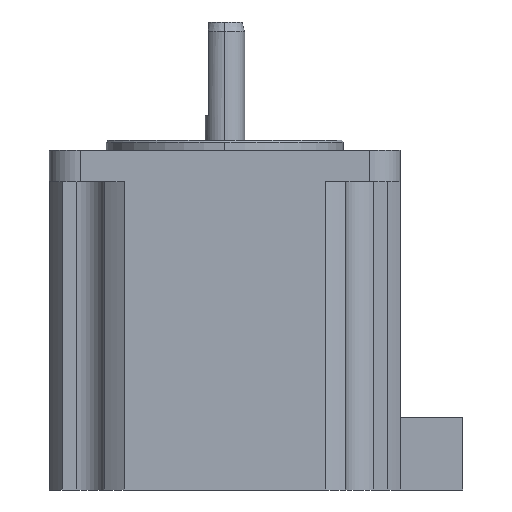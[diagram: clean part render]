
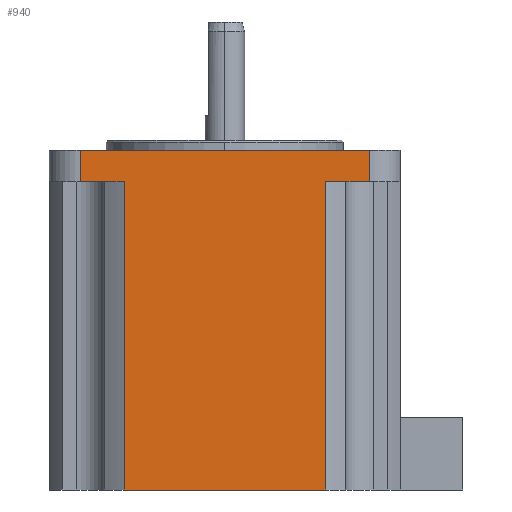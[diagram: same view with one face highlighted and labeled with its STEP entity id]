
A CAD part, left-side view. The second image highlights one B-rep face of the part: STEP entity #940.
In plain terms, the highlighted planar face has unit normal (-1, 0, 0).
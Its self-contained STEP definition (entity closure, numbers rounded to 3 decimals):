
#24 = VERTEX_POINT ( 'NONE', #835 ) ;
#78 = DIRECTION ( 'NONE',  ( 0., 0., 1. ) ) ;
#111 = CARTESIAN_POINT ( 'NONE',  ( -28.2, 23.2, -6.6 ) ) ;
#140 = ORIENTED_EDGE ( 'NONE', *, *, #838, .F. ) ;
#273 = LINE ( 'NONE', #1495, #622 ) ;
#288 = CARTESIAN_POINT ( 'NONE',  ( -28.2, -23.2, -6.6 ) ) ;
#289 = EDGE_CURVE ( 'NONE', #850, #24, #507, .T. ) ;
#297 = VECTOR ( 'NONE', #1121, 1000. ) ;
#328 = LINE ( 'NONE', #1330, #297 ) ;
#443 = ORIENTED_EDGE ( 'NONE', *, *, #1891, .F. ) ;
#466 = EDGE_LOOP ( 'NONE', ( #1234, #1326, #1475, #1358, #140, #595, #443, #1168 ) ) ;
#481 = CARTESIAN_POINT ( 'NONE',  ( -28.2, -16.156, -56.1 ) ) ;
#507 = LINE ( 'NONE', #288, #1069 ) ;
#513 = DIRECTION ( 'NONE',  ( 0., 1., 0. ) ) ;
#534 = VERTEX_POINT ( 'NONE', #111 ) ;
#545 = FACE_OUTER_BOUND ( 'NONE', #466, .T. ) ;
#559 = EDGE_CURVE ( 'NONE', #1965, #946, #328, .T. ) ;
#589 = EDGE_CURVE ( 'NONE', #1440, #534, #273, .T. ) ;
#595 = ORIENTED_EDGE ( 'NONE', *, *, #559, .F. ) ;
#597 = AXIS2_PLACEMENT_3D ( 'NONE', #924, #723, #513 ) ;
#611 = VECTOR ( 'NONE', #950, 1000. ) ;
#622 = VECTOR ( 'NONE', #1278, 1000. ) ;
#676 = VECTOR ( 'NONE', #1620, 1000. ) ;
#712 = CARTESIAN_POINT ( 'NONE',  ( -28.2, -23.2, -6.6 ) ) ;
#723 = DIRECTION ( 'NONE',  ( 1., 0., 0. ) ) ;
#786 = CARTESIAN_POINT ( 'NONE',  ( -28.2, -16.156, -6.6 ) ) ;
#835 = CARTESIAN_POINT ( 'NONE',  ( -28.2, -23.2, -1.6 ) ) ;
#838 = EDGE_CURVE ( 'NONE', #946, #534, #1984, .T. ) ;
#850 = VERTEX_POINT ( 'NONE', #712 ) ;
#924 = CARTESIAN_POINT ( 'NONE',  ( -28.2, 28.2, -6.6 ) ) ;
#940 = ADVANCED_FACE ( 'NONE', ( #545 ), #1147, .F. ) ;
#946 = VERTEX_POINT ( 'NONE', #1517 ) ;
#950 = DIRECTION ( 'NONE',  ( 0., 1., 0. ) ) ;
#1051 = EDGE_CURVE ( 'NONE', #1587, #2011, #1741, .T. ) ;
#1069 = VECTOR ( 'NONE', #78, 1000. ) ;
#1104 = EDGE_CURVE ( 'NONE', #24, #1440, #1375, .T. ) ;
#1121 = DIRECTION ( 'NONE',  ( 0., 0., 1. ) ) ;
#1147 = PLANE ( 'NONE',  #597 ) ;
#1168 = ORIENTED_EDGE ( 'NONE', *, *, #1051, .T. ) ;
#1170 = CARTESIAN_POINT ( 'NONE',  ( -28.2, 28.2, -1.6 ) ) ;
#1234 = ORIENTED_EDGE ( 'NONE', *, *, #1309, .F. ) ;
#1256 = CARTESIAN_POINT ( 'NONE',  ( -28.2, 16.156, -56.1 ) ) ;
#1278 = DIRECTION ( 'NONE',  ( 0., 0., -1. ) ) ;
#1309 = EDGE_CURVE ( 'NONE', #850, #2011, #2039, .T. ) ;
#1318 = DIRECTION ( 'NONE',  ( 0., 0., 1. ) ) ;
#1326 = ORIENTED_EDGE ( 'NONE', *, *, #289, .T. ) ;
#1330 = CARTESIAN_POINT ( 'NONE',  ( -28.2, 16.156, -56.1 ) ) ;
#1358 = ORIENTED_EDGE ( 'NONE', *, *, #589, .T. ) ;
#1364 = CARTESIAN_POINT ( 'NONE',  ( -28.2, 23.2, -1.6 ) ) ;
#1375 = LINE ( 'NONE', #1170, #611 ) ;
#1410 = DIRECTION ( 'NONE',  ( 0., 1., 0. ) ) ;
#1440 = VERTEX_POINT ( 'NONE', #1364 ) ;
#1475 = ORIENTED_EDGE ( 'NONE', *, *, #1104, .T. ) ;
#1495 = CARTESIAN_POINT ( 'NONE',  ( -28.2, 23.2, -6.6 ) ) ;
#1517 = CARTESIAN_POINT ( 'NONE',  ( -28.2, 16.156, -6.6 ) ) ;
#1528 = CARTESIAN_POINT ( 'NONE',  ( -28.2, -16.156, -56.1 ) ) ;
#1553 = DIRECTION ( 'NONE',  ( 0., 1., 0. ) ) ;
#1587 = VERTEX_POINT ( 'NONE', #481 ) ;
#1620 = DIRECTION ( 'NONE',  ( 0., 1., 0. ) ) ;
#1628 = CARTESIAN_POINT ( 'NONE',  ( -28.2, 0., -56.1 ) ) ;
#1741 = LINE ( 'NONE', #1528, #1870 ) ;
#1752 = VECTOR ( 'NONE', #1553, 1000. ) ;
#1771 = CARTESIAN_POINT ( 'NONE',  ( -28.2, 28.2, -6.6 ) ) ;
#1831 = CARTESIAN_POINT ( 'NONE',  ( -28.2, 28.2, -6.6 ) ) ;
#1839 = LINE ( 'NONE', #1628, #1963 ) ;
#1870 = VECTOR ( 'NONE', #1318, 1000. ) ;
#1891 = EDGE_CURVE ( 'NONE', #1587, #1965, #1839, .T. ) ;
#1963 = VECTOR ( 'NONE', #1410, 1000. ) ;
#1965 = VERTEX_POINT ( 'NONE', #1256 ) ;
#1984 = LINE ( 'NONE', #1771, #1752 ) ;
#2011 = VERTEX_POINT ( 'NONE', #786 ) ;
#2039 = LINE ( 'NONE', #1831, #676 ) ;
